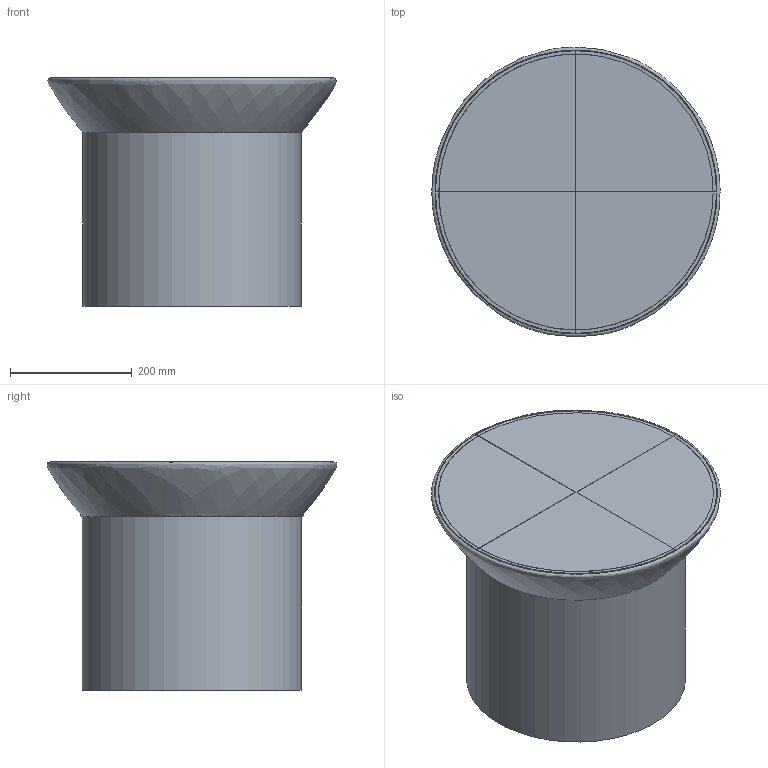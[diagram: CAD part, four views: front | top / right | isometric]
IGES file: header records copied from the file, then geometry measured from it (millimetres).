
Global section: file name: 16HC:\Users\Monika; native system: Rhinoceros ( Feb  8 2022 ); preprocessor: Trout Lake IGES 012 Feb  8 2022; date: 230924.183309; units: millimetre
Bounding box: 473.37 x 475.98 x 375.68 mm (x, y, z)
Surface area: 981262.1 mm2 (no closed solid volume)
Topology: 0 solids, 0 shells, 19 faces, 86 edges, 88 vertices
Faces by surface type: bspline 19
